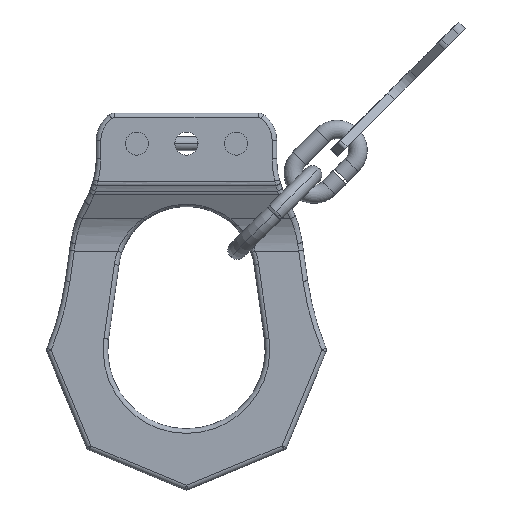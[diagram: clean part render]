
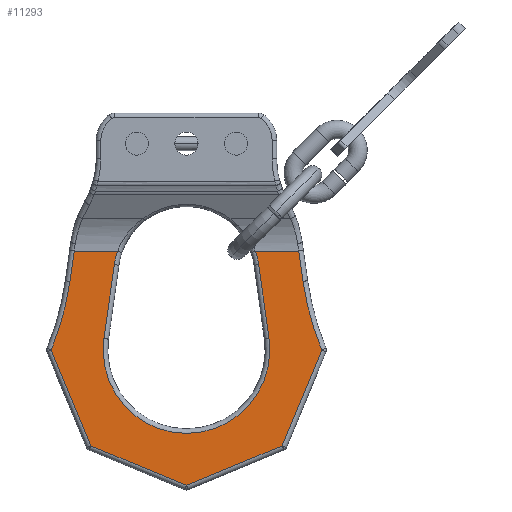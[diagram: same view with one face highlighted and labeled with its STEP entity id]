
A CAD part, front view. The second image highlights one B-rep face of the part: STEP entity #11293.
In plain terms, the highlighted planar face has unit normal (0, -1, 0).
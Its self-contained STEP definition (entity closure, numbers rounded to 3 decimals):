
#1678=CARTESIAN_POINT('',(14.881,-4.,21.382));
#1696=CARTESIAN_POINT('',(24.26,-4.,21.383));
#3940=DIRECTION('',(0.139,0.,0.99));
#3941=VECTOR('',#3940,16.105);
#3942=CARTESIAN_POINT('',(-17.825,-4.,2.505));
#3943=LINE('',#3942,#3941);
#3944=CARTESIAN_POINT('',(0.,-4.,0.));
#3945=DIRECTION('',(0.,1.,0.));
#3946=DIRECTION('',(0.99,0.,0.139));
#3947=AXIS2_PLACEMENT_3D('',#3944,#3945,#3946);
#3949=DIRECTION('',(0.139,0.,-0.99));
#3950=VECTOR('',#3949,16.105);
#3951=CARTESIAN_POINT('',(15.583,-4.,18.454));
#3952=LINE('',#3951,#3950);
#3953=CARTESIAN_POINT('',(0.,-4.,16.263));
#3954=DIRECTION('',(0.,1.,0.));
#3955=DIRECTION('',(0.946,0.,0.325));
#3956=AXIS2_PLACEMENT_3D('',#3953,#3954,#3955);
#3958=DIRECTION('',(-1.,0.,0.));
#3959=VECTOR('',#3958,9.38);
#3960=CARTESIAN_POINT('',(24.26,-4.,21.383));
#3961=LINE('',#3960,#3959);
#3962=DIRECTION('',(0.139,0.,-0.99));
#3963=VECTOR('',#3962,6.603);
#3964=CARTESIAN_POINT('',(24.26,-4.,21.383));
#3965=LINE('',#3964,#3963);
#3966=CARTESIAN_POINT('',(85.586,-4.,23.333));
#3967=DIRECTION('',(0.,-1.,0.));
#3968=DIRECTION('',(-0.99,0.,-0.139));
#3969=AXIS2_PLACEMENT_3D('',#3966,#3967,#3968);
#3971=DIRECTION('',(-0.383,0.,-0.924));
#3972=VECTOR('',#3971,22.368);
#3973=CARTESIAN_POINT('',(29.225,-4.,0.));
#3974=LINE('',#3973,#3972);
#3975=DIRECTION('',(-0.924,0.,-0.383));
#3976=VECTOR('',#3975,22.368);
#3977=CARTESIAN_POINT('',(20.665,-4.,-20.665));
#3978=LINE('',#3977,#3976);
#3979=DIRECTION('',(-0.924,0.,0.383));
#3980=VECTOR('',#3979,22.368);
#3981=CARTESIAN_POINT('',(0.,-4.,-29.225));
#3982=LINE('',#3981,#3980);
#3983=DIRECTION('',(-0.383,0.,0.924));
#3984=VECTOR('',#3983,22.368);
#3985=CARTESIAN_POINT('',(-20.665,-4.,-20.665));
#3986=LINE('',#3985,#3984);
#3987=CARTESIAN_POINT('',(-85.586,-4.,23.333));
#3988=DIRECTION('',(0.,-1.,0.));
#3989=DIRECTION('',(0.924,0.,-0.383));
#3990=AXIS2_PLACEMENT_3D('',#3987,#3988,#3989);
#3992=DIRECTION('',(0.139,0.,0.99));
#3993=VECTOR('',#3992,6.603);
#3994=CARTESIAN_POINT('',(-25.179,-4.,14.844));
#3995=LINE('',#3994,#3993);
#3996=DIRECTION('',(-1.,0.,0.));
#3997=VECTOR('',#3996,9.38);
#3998=CARTESIAN_POINT('',(-14.881,-4.,
21.383));
#3999=LINE('',#3998,#3997);
#4000=CARTESIAN_POINT('',(0.,-4.,16.263));
#4001=DIRECTION('',(0.,1.,0.));
#4002=DIRECTION('',(-0.99,0.,0.139));
#4003=AXIS2_PLACEMENT_3D('',#4000,#4001,#4002);
#5357=CARTESIAN_POINT('',(20.665,-4.,-20.665));
#5358=CARTESIAN_POINT('',(0.,-4.,-29.225));
#5359=VERTEX_POINT('',#5357);
#5360=VERTEX_POINT('',#5358);
#5365=CARTESIAN_POINT('',(-20.665,-4.,-20.665));
#5366=VERTEX_POINT('',#5365);
#5371=CARTESIAN_POINT('',(-29.225,-4.,0.));
#5372=VERTEX_POINT('',#5371);
#5377=CARTESIAN_POINT('',(-25.179,-4.,14.844));
#5378=VERTEX_POINT('',#5377);
#5381=CARTESIAN_POINT('',(-24.26,-4.,
21.383));
#5382=VERTEX_POINT('',#5381);
#5446=VERTEX_POINT('',#1696);
#5449=CARTESIAN_POINT('',(25.179,-4.,14.844));
#5450=VERTEX_POINT('',#5449);
#5453=CARTESIAN_POINT('',(29.225,-4.,0.));
#5454=VERTEX_POINT('',#5453);
#5483=CARTESIAN_POINT('',(-17.825,-4.,2.505));
#5484=CARTESIAN_POINT('',(-15.583,-4.,18.454));
#5485=VERTEX_POINT('',#5483);
#5486=VERTEX_POINT('',#5484);
#5491=CARTESIAN_POINT('',(-14.881,-4.,21.382));
#5492=VERTEX_POINT('',#5491);
#5499=VERTEX_POINT('',#1678);
#5501=CARTESIAN_POINT('',(15.583,-4.,18.454));
#5502=VERTEX_POINT('',#5501);
#5505=CARTESIAN_POINT('',(17.825,-4.,2.505));
#5506=VERTEX_POINT('',#5505);
#11259=CARTESIAN_POINT('',(36.272,-4.,21.383));
#11260=DIRECTION('',(0.,-1.,0.));
#11261=DIRECTION('',(0.,0.,-1.));
#11262=AXIS2_PLACEMENT_3D('',#11259,#11260,#11261);
#11263=PLANE('',#11262);
#11265=ORIENTED_EDGE('',*,*,#11264,.F.);
#11267=ORIENTED_EDGE('',*,*,#11266,.F.);
#11268=ORIENTED_EDGE('',*,*,#11249,.F.);
#11270=ORIENTED_EDGE('',*,*,#11269,.F.);
#11271=ORIENTED_EDGE('',*,*,#8143,.F.);
#11273=ORIENTED_EDGE('',*,*,#11272,.T.);
#11275=ORIENTED_EDGE('',*,*,#11274,.T.);
#11277=ORIENTED_EDGE('',*,*,#11276,.T.);
#11279=ORIENTED_EDGE('',*,*,#11278,.T.);
#11281=ORIENTED_EDGE('',*,*,#11280,.T.);
#11283=ORIENTED_EDGE('',*,*,#11282,.T.);
#11285=ORIENTED_EDGE('',*,*,#11284,.T.);
#11287=ORIENTED_EDGE('',*,*,#11286,.T.);
#11288=ORIENTED_EDGE('',*,*,#8124,.F.);
#11290=ORIENTED_EDGE('',*,*,#11289,.F.);
#11291=EDGE_LOOP('',(#11265,#11267,#11268,#11270,#11271,#11273,#11275,#11277,
#11279,#11281,#11283,#11285,#11287,#11288,#11290));
#11292=FACE_OUTER_BOUND('',#11291,.F.);
#11293=ADVANCED_FACE('',(#11292),#11263,.T.);
#3948=CIRCLE('',#3947,18.);
#3957=CIRCLE('',#3956,15.737);
#3970=CIRCLE('',#3969,61.);
#3991=CIRCLE('',#3990,61.);
#4004=CIRCLE('',#4003,15.737);
#8124=EDGE_CURVE('',#5492,#5382,#3999,.T.);
#8143=EDGE_CURVE('',#5446,#5499,#3961,.T.);
#11249=EDGE_CURVE('',#5502,#5506,#3952,.T.);
#11264=EDGE_CURVE('',#5485,#5486,#3943,.T.);
#11266=EDGE_CURVE('',#5506,#5485,#3948,.T.);
#11269=EDGE_CURVE('',#5499,#5502,#3957,.T.);
#11272=EDGE_CURVE('',#5446,#5450,#3965,.T.);
#11274=EDGE_CURVE('',#5450,#5454,#3970,.T.);
#11276=EDGE_CURVE('',#5454,#5359,#3974,.T.);
#11278=EDGE_CURVE('',#5359,#5360,#3978,.T.);
#11280=EDGE_CURVE('',#5360,#5366,#3982,.T.);
#11282=EDGE_CURVE('',#5366,#5372,#3986,.T.);
#11284=EDGE_CURVE('',#5372,#5378,#3991,.T.);
#11286=EDGE_CURVE('',#5378,#5382,#3995,.T.);
#11289=EDGE_CURVE('',#5486,#5492,#4004,.T.);
